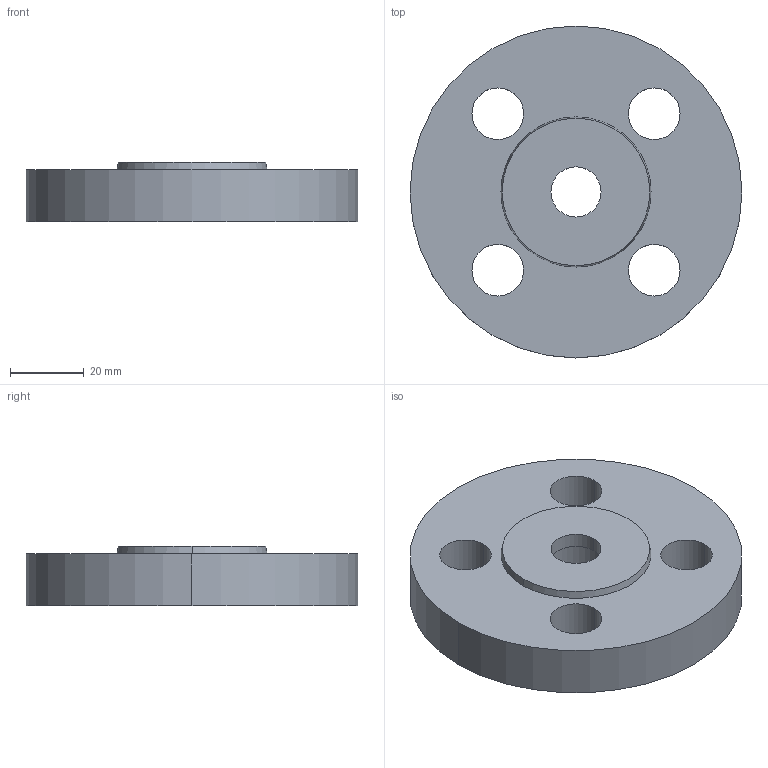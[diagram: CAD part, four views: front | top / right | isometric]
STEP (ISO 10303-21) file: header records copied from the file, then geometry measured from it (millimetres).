
FILE_DESCRIPTION (( 'STEP AP214' ), '1' );
FILE_NAME ('PN40 DN10 Type 05 - Socket (Type B) - Not in Standard.STEP', '2018-12-29T05:16:30', ( '' ), ( '' ), 'SwSTEP 2.0', 'SolidWorks 2019', '' );
FILE_SCHEMA (( 'AUTOMOTIVE_DESIGN' ));
Length unit declared in the file: millimetre
Products named in the file (1): PN40 DN10 Type 05 - Socket (Type B) - Not in Standard
Bounding box: 90 x 90 x 16 mm (x, y, z)
Volume: 79366.8 mm3; surface area: 18685.1 mm2
Topology: 1 solids, 1 shells, 20 faces, 48 edges, 32 vertices
Faces by surface type: cylinder 14, plane 4, cone 2
Entity records: 658 total; most frequent: DIRECTION 122, CARTESIAN_POINT 101, ORIENTED_EDGE 96, AXIS2_PLACEMENT_3D 53, EDGE_CURVE 48, CIRCLE 32, VERTEX_POINT 32, EDGE_LOOP 32
